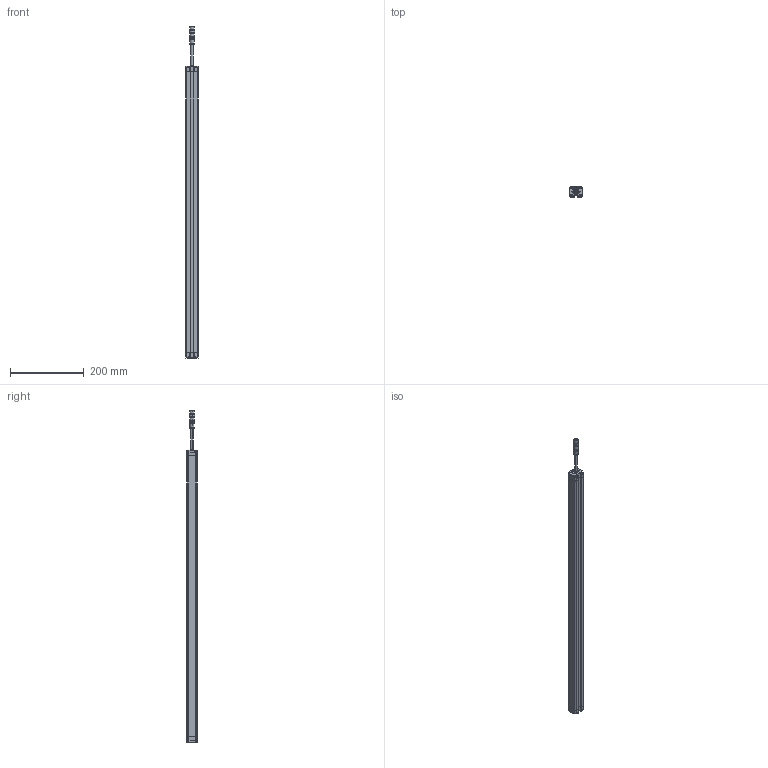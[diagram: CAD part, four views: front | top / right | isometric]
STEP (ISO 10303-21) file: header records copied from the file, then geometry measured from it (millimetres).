
FILE_DESCRIPTION((''),'2;1');
FILE_NAME('SMT1-CGQ_ASM','2025-08-08T08:30:41',('Administrator'),(''),'CREO PARAMETRIC BY PTC INC, 2016510','CREO PARAMETRIC BY PTC INC, 2016510','');
FILE_SCHEMA(('CONFIG_CONTROL_DESIGN'));
Length unit declared in the file: millimetre
Products named in the file (7): SMT1-XINGCAI-V1; SMT1-SDG-V1; SMT1-XDG-V1; M12-CHATOU; ST3X18; CT4-LVGUANGBAN; SMT1-CGQ_ASM
Assembly tree (13 placements, depth 2):
  SMT1-CGQ_ASM
    SMT1-XINGCAI-V1
    SMT1-SDG-V1
    SMT1-XDG-V1
    M12-CHATOU
    ST3X18  x8
    CT4-LVGUANGBAN
Bounding box: 33 x 28.02 x 899.5 mm (x, y, z)
Volume: 614443.8 mm3; surface area: 199819 mm2
Topology: 13 solids, 13 shells, 712 faces, 1868 edges, 1200 vertices
Faces by surface type: plane 382, cylinder 184, extrusion 86, sphere 32, cone 20, bspline 8
Entity records: 18128 total; most frequent: CARTESIAN_POINT 4347, ORIENTED_EDGE 2916, DIRECTION 2580, EDGE_CURVE 1458, VECTOR 1036, VERTEX_POINT 955, LINE 950, AXIS2_PLACEMENT_3D 772
